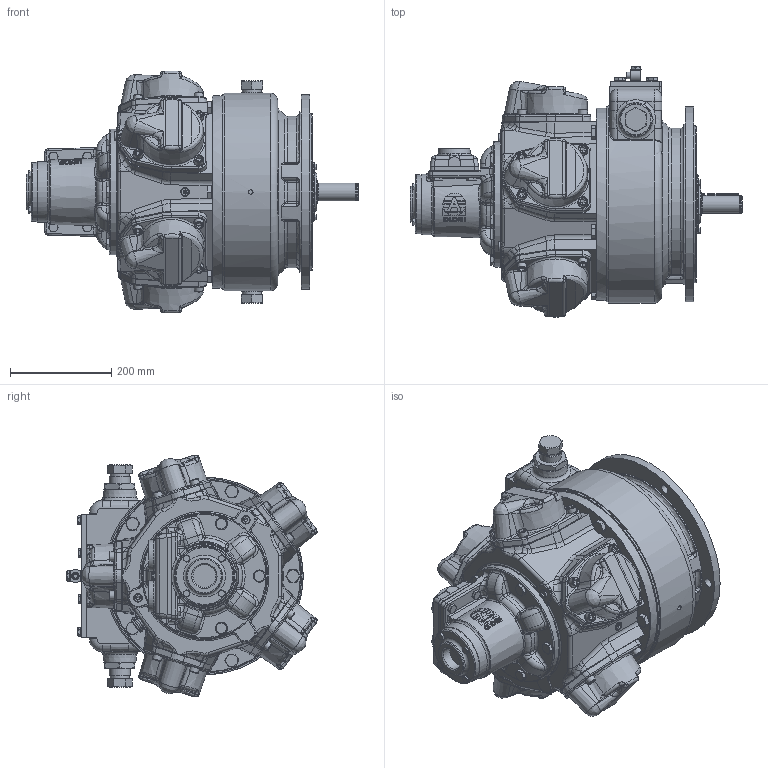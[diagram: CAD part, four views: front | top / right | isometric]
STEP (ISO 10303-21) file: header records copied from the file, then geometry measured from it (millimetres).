
FILE_DESCRIPTION (( 'STEP AP214' ), '1' );
FILE_NAME ('RM510+RM510 Brake Defeature + Logo.STEP', '2023-06-14T08:42:59', ( '' ), ( '' ), 'SwSTEP 2.0', 'SolidWorks 2022', '' );
FILE_SCHEMA (( 'AUTOMOTIVE_DESIGN' ));
Length unit declared in the file: millimetre
Products named in the file (1): RM510+RM510 Brake Defeature + Logo
Bounding box: 655.34 x 493.63 x 477.6 mm (x, y, z)
Volume: 47556426.2 mm3; surface area: 1140206.1 mm2
Topology: 1 solids, 1 shells, 2924 faces, 7272 edges, 4387 vertices
Faces by surface type: plane 1253, bspline 552, cylinder 496, cone 450, torus 141, sphere 32
Full cylindrical faces by diameter (mm): 3.15 x1, 8 x1, 8.8 x1, 10 x6, 11.9 x4, 13.157 x1, 16 x8, 17 x4, 18 x25, 19 x2, 20 x20, 20.57 x2, 21 x5, 24 x10, 35.01 x1, 38 x2, 41.91 x2, 45.25 x3, 48 x1, 51.398 x1, 62 x1, 62.02 x1, 248 x1, 310 x1, 317 x1, 380 x1, 385 x2
Entity records: 157371 total; most frequent: CARTESIAN_POINT 62468, ORIENTED_EDGE 13822, DIRECTION 11785, EDGE_CURVE 6911, AXIS2_PLACEMENT_3D 4581, VERTEX_POINT 4271, EDGE_LOOP 3276, FACE_OUTER_BOUND 3043
